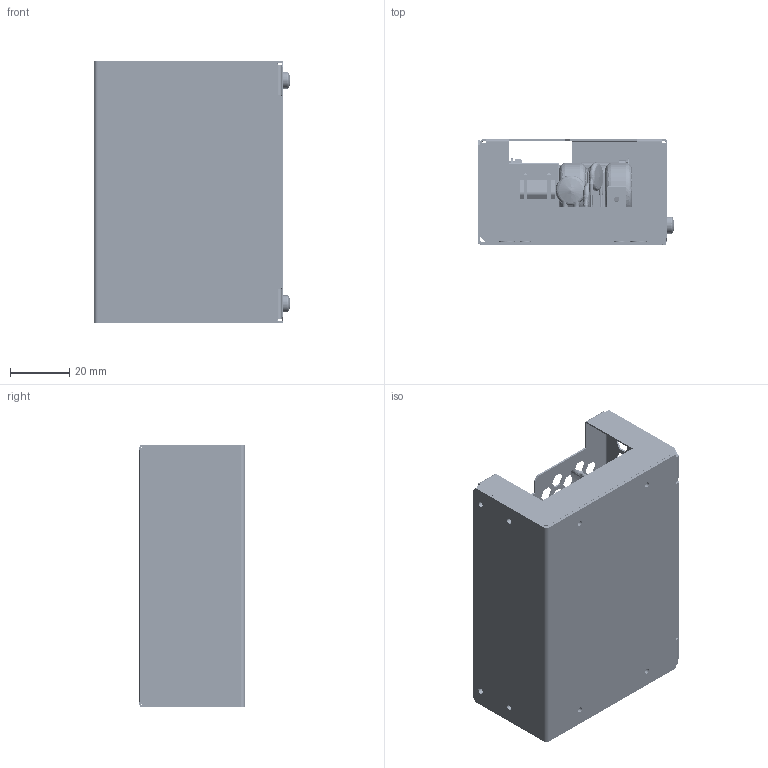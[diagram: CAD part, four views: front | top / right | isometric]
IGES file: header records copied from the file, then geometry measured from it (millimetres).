
Start section: SolidWorks IGES file using analytic representation for surfaces
Global section: file name: C:\Documents and Settings\behzar\Desktop\BEHZAR\PROJECTS\CURRENT-2010\SW-MODELS\WORKING\ECS45-12V-48V-OUTPUT-WITH-COVER.IGS; native system: SolidWorks 2010; preprocessor: SolidWorks 2010; author: BEHZAR; date: 100629.115441; units: inch
Bounding box: 66.46 x 35.63 x 88.39 mm (x, y, z)
Surface area: 84789.7 mm2 (no closed solid volume)
Topology: 0 solids, 0 shells, 3182 faces, 28592 edges, 28547 vertices
Faces by surface type: bspline 2299, revolution 883
